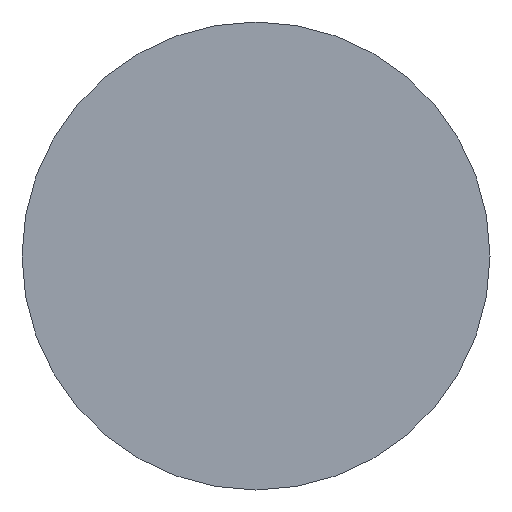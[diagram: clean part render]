
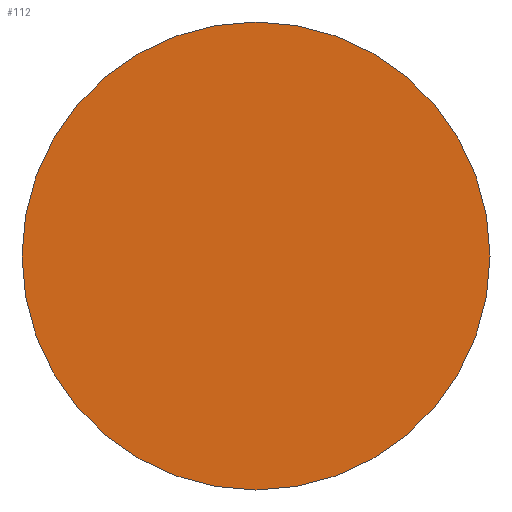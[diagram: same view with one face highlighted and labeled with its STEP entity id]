
A CAD part, left-side view. The second image highlights one B-rep face of the part: STEP entity #112.
In plain terms, the highlighted planar face has unit normal (-1, 0, 0).
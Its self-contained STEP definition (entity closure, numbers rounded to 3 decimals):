
#7 = CARTESIAN_POINT ( 'NONE',  ( 0., 0., 0. ) ) ;
#78 = VERTEX_POINT ( 'NONE', #130 ) ;
#112 = ADVANCED_FACE ( 'NONE', ( #146 ), #183, .F. ) ;
#116 = VERTEX_POINT ( 'NONE', #180 ) ;
#123 = ORIENTED_EDGE ( 'NONE', *, *, #261, .T. ) ;
#127 = EDGE_CURVE ( 'NONE', #78, #116, #257, .T. ) ;
#128 = AXIS2_PLACEMENT_3D ( 'NONE', #238, #271, #290 ) ;
#130 = CARTESIAN_POINT ( 'NONE',  ( 0., 0., -4. ) ) ;
#134 = DIRECTION ( 'NONE',  ( -1., 0., 0. ) ) ;
#136 = AXIS2_PLACEMENT_3D ( 'NONE', #7, #134, #177 ) ;
#146 = FACE_OUTER_BOUND ( 'NONE', #266, .T. ) ;
#174 = CARTESIAN_POINT ( 'NONE',  ( 0., 0., 0. ) ) ;
#177 = DIRECTION ( 'NONE',  ( 0., 0., 1. ) ) ;
#180 = CARTESIAN_POINT ( 'NONE',  ( 0., 0., 4. ) ) ;
#183 = PLANE ( 'NONE',  #251 ) ;
#188 = DIRECTION ( 'NONE',  ( 1., 0., 0. ) ) ;
#193 = DIRECTION ( 'NONE',  ( 0., 0., -1. ) ) ;
#238 = CARTESIAN_POINT ( 'NONE',  ( 0., 0., 0. ) ) ;
#248 = ORIENTED_EDGE ( 'NONE', *, *, #127, .T. ) ;
#251 = AXIS2_PLACEMENT_3D ( 'NONE', #174, #188, #193 ) ;
#257 = CIRCLE ( 'NONE', #128, 4. ) ;
#261 = EDGE_CURVE ( 'NONE', #116, #78, #263, .T. ) ;
#263 = CIRCLE ( 'NONE', #136, 4. ) ;
#266 = EDGE_LOOP ( 'NONE', ( #123, #248 ) ) ;
#271 = DIRECTION ( 'NONE',  ( -1., 0., 0. ) ) ;
#290 = DIRECTION ( 'NONE',  ( 0., 0., 1. ) ) ;
